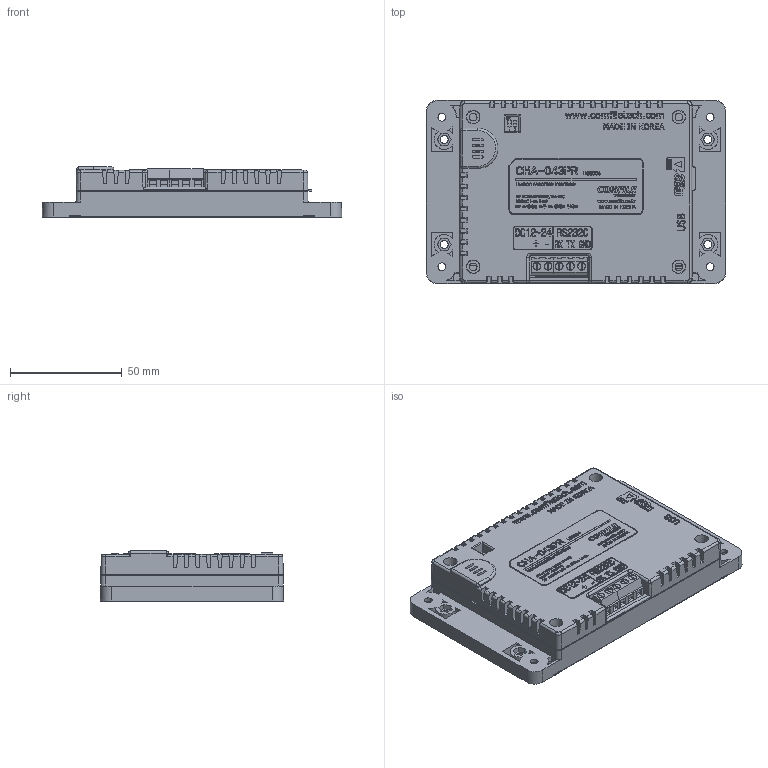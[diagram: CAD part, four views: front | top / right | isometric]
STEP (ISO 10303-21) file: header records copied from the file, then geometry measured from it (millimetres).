
FILE_DESCRIPTION (( 'STEP AP214' ), '1' );
FILE_NAME ('microCHMI_043_forStep.STEP', '2020-02-12T07:11:59', ( 'luke' ), ( '' ), 'SwSTEP 2.0', 'SolidWorks 2016', '' );
FILE_SCHEMA (( 'AUTOMOTIVE_DESIGN' ));
Length unit declared in the file: millimetre
Products named in the file (1): microCHMI_043_forStep
Bounding box: 134 x 82 x 22.4 mm (x, y, z)
Surface area: 58705.4 mm2 (no closed solid volume)
Topology: 0 solids, 116 shells, 1966 faces, 8515 edges, 6545 vertices
Faces by surface type: plane 1185, bspline 590, cylinder 137, cone 45, torus 5, sphere 4
Full cylindrical faces by diameter (mm): 0.672 x1, 0.868 x1, 1.922 x1, 3.5 x5, 3.6 x4
Entity records: 141146 total; most frequent: CARTESIAN_POINT 59007, ORIENTED_EDGE 12043, DIRECTION 9043, EDGE_CURVE 8485, VERTEX_POINT 6543, LINE 5745, VECTOR 5745, EDGE_LOOP 2313
